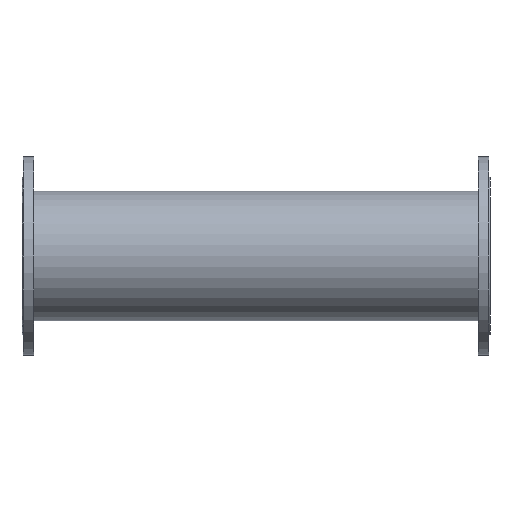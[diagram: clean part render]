
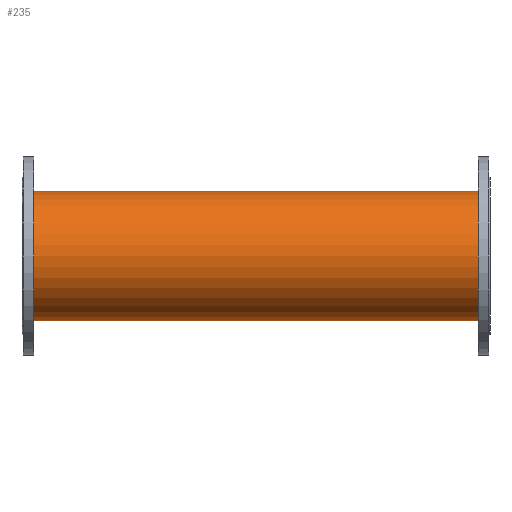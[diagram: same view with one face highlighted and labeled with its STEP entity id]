
A CAD part, front view. The second image highlights one B-rep face of the part: STEP entity #235.
In plain terms, the highlighted cylindrical face has radius 111 mm (diameter 222 mm), a partial arc.
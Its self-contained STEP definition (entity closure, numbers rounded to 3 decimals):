
#235=ADVANCED_FACE('',(#480),#481,.T.);
#480=FACE_OUTER_BOUND('',#741,.T.);
#481=CYLINDRICAL_SURFACE('',#742,111.0);
#741=EDGE_LOOP('',(#1246,#1247,#1248,#1249));
#742=AXIS2_PLACEMENT_3D('',#1250,#1251,#1252);
#1246=ORIENTED_EDGE('',*,*,#1505,.T.);
#1247=ORIENTED_EDGE('',*,*,#1469,.T.);
#1248=ORIENTED_EDGE('',*,*,#1507,.T.);
#1249=ORIENTED_EDGE('',*,*,#1530,.T.);
#1250=CARTESIAN_POINT('',(10.0,0.0,0.));
#1251=DIRECTION('',(1.0,0.0,0.));
#1252=DIRECTION('',(0.,0.0,-1.0));
#1469=EDGE_CURVE('',#1768,#1769,#1770,.T.);
#1505=EDGE_CURVE('',#1822,#1768,#1823,.T.);
#1507=EDGE_CURVE('',#1769,#1824,#1826,.T.);
#1530=EDGE_CURVE('',#1824,#1822,#1853,.T.);
#1768=VERTEX_POINT('',#2123);
#1769=VERTEX_POINT('',#2124);
#1770=CIRCLE('',#2125,111.0);
#1822=VERTEX_POINT('',#2191);
#1823=LINE('',#2192,#2193);
#1824=VERTEX_POINT('',#2194);
#1826=LINE('',#2196,#2197);
#1853=CIRCLE('',#2230,111.0);
#2123=CARTESIAN_POINT('',(790.0,0.0,-111.0));
#2124=CARTESIAN_POINT('',(790.0,0.,111.0));
#2125=AXIS2_PLACEMENT_3D('',#2515,#2516,#2517);
#2191=CARTESIAN_POINT('',(10.0,0.0,-111.0));
#2192=CARTESIAN_POINT('',(10.0,0.,-111.0));
#2193=VECTOR('',#2562,1.0);
#2194=CARTESIAN_POINT('',(10.,0.,111.0));
#2196=CARTESIAN_POINT('',(10.,0.,111.0));
#2197=VECTOR('',#2566,1.0);
#2230=AXIS2_PLACEMENT_3D('',#2591,#2592,#2593);
#2515=CARTESIAN_POINT('',(790.0,0.0,0.));
#2516=DIRECTION('',(-1.0,-0.0,0.));
#2517=DIRECTION('',(0.,0.0,-1.0));
#2562=DIRECTION('',(1.0,0.0,0.));
#2566=DIRECTION('',(-1.0,-0.0,0.));
#2591=CARTESIAN_POINT('',(10.0,0.0,0.));
#2592=DIRECTION('',(1.0,0.0,0.));
#2593=DIRECTION('',(0.,0.0,-1.0));
